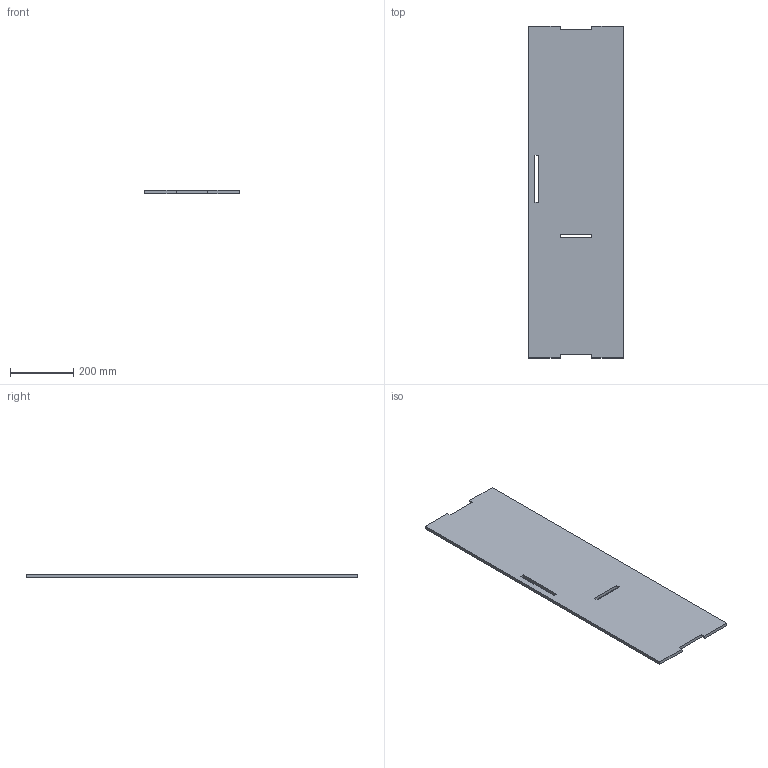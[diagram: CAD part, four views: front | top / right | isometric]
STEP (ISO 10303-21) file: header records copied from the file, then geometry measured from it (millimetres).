
FILE_DESCRIPTION (( 'STEP AP214' ), '1' );
FILE_NAME ('back side.STEP', '2024-10-17T15:54:17', ( '' ), ( '' ), 'SwSTEP 2.0', 'SolidWorks 2020', '' );
FILE_SCHEMA (( 'AUTOMOTIVE_DESIGN' ));
Length unit declared in the file: millimetre
Products named in the file (1): back side
Bounding box: 300 x 1050 x 10 mm (x, y, z)
Volume: 3096000 mm3; surface area: 652160 mm2
Topology: 1 solids, 1 shells, 22 faces, 60 edges, 40 vertices
Faces by surface type: plane 22
Entity records: 726 total; most frequent: CARTESIAN_POINT 123, ORIENTED_EDGE 120, DIRECTION 106, VECTOR 60, EDGE_CURVE 60, LINE 60, VERTEX_POINT 40, EDGE_LOOP 26
